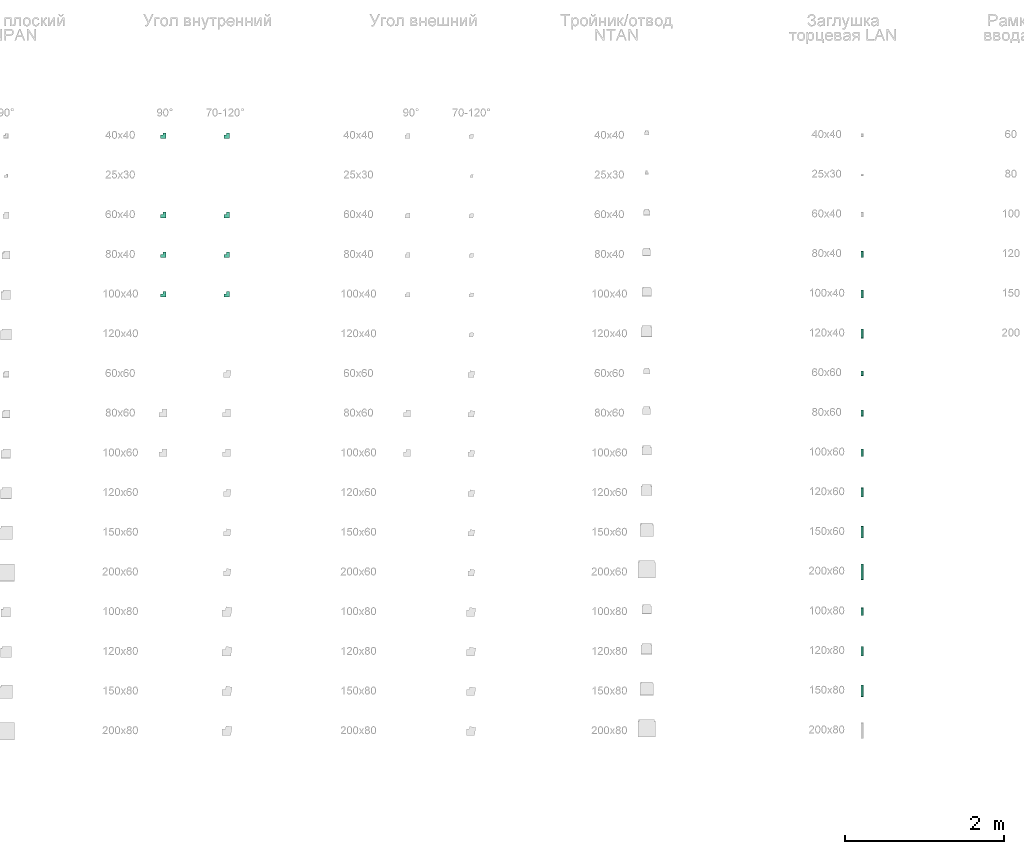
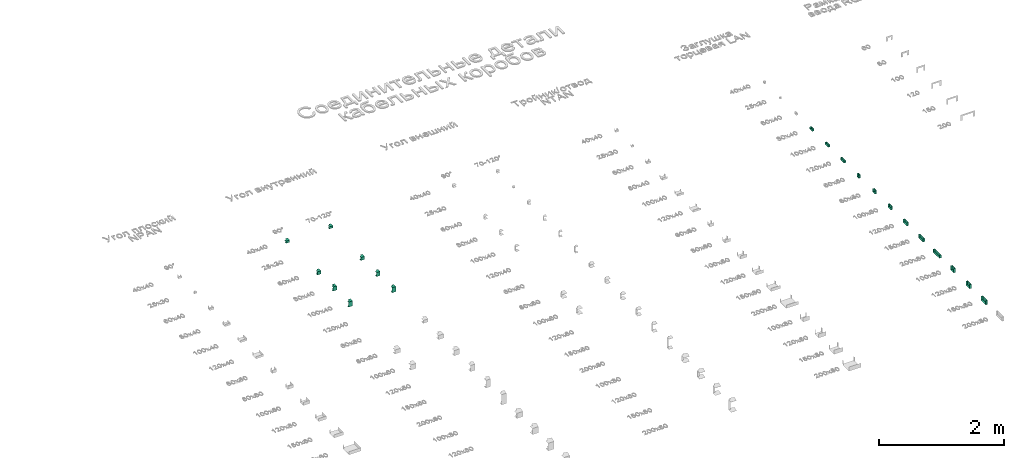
# One storey, part 3 of 71: 20 flow fittings.
"""IFC2X3 building model written with IfcOpenShell, lengths in millimetres."""

from ifc_helpers import new_model, entity, si_unit, converted_unit, derived_unit, direction, frame, frame_2d, origin, place, context, subcontext, project, spatial, polyline, rectangle, outline, extrude, faceted_brep, source, transform, mapped, material, type_object, type_shapes, element, save


model = new_model("IFC2X3")

# Units and contexts
model_context = context("Model", 3, precision=0.01, world=origin(), true_north=direction((6.12303176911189e-17, 1.0)))
body_context = subcontext(model_context, "Body", "Model", "MODEL_VIEW")
ifc_project = project(units=[si_unit("LENGTHUNIT", "METRE", prefix="MILLI"), si_unit("AREAUNIT", "SQUARE_METRE"), si_unit("VOLUMEUNIT", "CUBIC_METRE"), converted_unit("PLANEANGLEUNIT", "DEGREE", entity("IfcRatioMeasure", 0.0174532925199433), si_unit("PLANEANGLEUNIT", "RADIAN"), dimensions=[0, 0, 0, 0, 0, 0, 0]), si_unit("MASSUNIT", "GRAM", prefix="KILO"), derived_unit("MASSDENSITYUNIT", [(si_unit("MASSUNIT", "GRAM", prefix="KILO"), 1), (si_unit("LENGTHUNIT", "METRE"), -3)]), si_unit("TIMEUNIT", "SECOND"), si_unit("FREQUENCYUNIT", "HERTZ"), si_unit("THERMODYNAMICTEMPERATUREUNIT", "DEGREE_CELSIUS"), derived_unit("THERMALTRANSMITTANCEUNIT", [(si_unit("MASSUNIT", "GRAM", prefix="KILO"), 1), (si_unit("THERMODYNAMICTEMPERATUREUNIT", "KELVIN"), -1), (si_unit("TIMEUNIT", "SECOND"), -3)]), derived_unit("VOLUMETRICFLOWRATEUNIT", [(si_unit("LENGTHUNIT", "METRE"), 3), (si_unit("TIMEUNIT", "SECOND"), -1)]), si_unit("ELECTRICCURRENTUNIT", "AMPERE"), si_unit("ELECTRICVOLTAGEUNIT", "VOLT"), si_unit("POWERUNIT", "WATT"), si_unit("FORCEUNIT", "NEWTON", prefix="KILO"), si_unit("ILLUMINANCEUNIT", "LUX"), si_unit("LUMINOUSFLUXUNIT", "LUMEN"), si_unit("LUMINOUSINTENSITYUNIT", "CANDELA"), derived_unit("USERDEFINED", [(si_unit("MASSUNIT", "GRAM", prefix="KILO"), -1), (si_unit("LENGTHUNIT", "METRE"), -2), (si_unit("TIMEUNIT", "SECOND"), 3), (si_unit("LUMINOUSFLUXUNIT", "LUMEN"), 1)]), derived_unit("LINEARVELOCITYUNIT", [(si_unit("LENGTHUNIT", "METRE"), 1), (si_unit("TIMEUNIT", "SECOND"), -1)]), si_unit("PRESSUREUNIT", "PASCAL"), derived_unit("USERDEFINED", [(si_unit("LENGTHUNIT", "METRE"), -2), (si_unit("MASSUNIT", "GRAM", prefix="KILO"), 1), (si_unit("TIMEUNIT", "SECOND"), -2)])], contexts=[model_context])

# Site, building, storey
site_placement = place(None, origin())
site = spatial("IfcSite", under=ifc_project, at=site_placement, Name="Default", CompositionType="ELEMENT")
building_placement = place(site_placement, origin())
building = spatial("IfcBuilding", under=site, at=building_placement, Name="Наименование здания", CompositionType="ELEMENT")
storey_placement = place(building_placement, origin())
storey = spatial("IfcBuildingStorey", under=building, at=storey_placement, Name="Этаж 01", CompositionType="ELEMENT", Elevation=0.0)

# Flow fittings
ifc_material = material(Name="DKC_Пластик_Белый")
cable_carrier_fitting_type_1 = type_object("IfcCableCarrierFittingType", Name="Угол внутренний_DKC", PredefinedType="NOTDEFINED", material=ifc_material)
shared_shape_1 = source(origin(), body_context, "Body", "Brep", [
    faceted_brep([(-50.0, -20.0, 20.0), (-50.0, 20.0, 20.0), (-50.0, 20.0, 17.500000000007), (-50.0, -17.4999999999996, 17.500000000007), (-50.0, -17.4999999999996, -17.499999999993), (-50.0, 20.0, -17.499999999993), (-50.0, 20.0, -20.0), (-50.0, -20.0, -20.0), (20.0, 50.0, 20.0), (20.0, 50.0, -20.0), (-20.0, 50.0, -20.0), (-20.0, 50.0, -17.499999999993), (17.5000000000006, 50.0, -17.499999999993), (17.5000000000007, 50.0, 17.500000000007), (-20.0, 50.0, 17.500000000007), (-20.0, 50.0, 20.0), (20.0, -20.0, 20.0), (-20.0, 20.0, 20.0), (-20.0, 20.0, 17.500000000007), (17.5000000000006, -17.5000000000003, 17.500000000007), (17.5000000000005, -17.4999999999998, -17.499999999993), (-20.0, 20.0, -17.499999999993), (-20.0, 20.0, -20.0), (20.0, -20.0, -20.0)], [[[0, 1, 2, 3, 4, 5, 6, 7]], [[8, 9, 10, 11, 12, 13, 14, 15]], [[1, 0, 16, 8, 15, 17]], [[2, 1, 17, 18]], [[3, 2, 18, 14, 13, 19]], [[4, 3, 19, 20]], [[5, 4, 20, 12, 11, 21]], [[6, 5, 21, 22]], [[7, 6, 22, 10, 9, 23]], [[0, 7, 23, 16]], [[18, 17, 15, 14]], [[20, 19, 13, 12]], [[22, 21, 11, 10]], [[16, 23, 9, 8]]]),
])
type_shapes(cable_carrier_fitting_type_1, [shared_shape_1])
for number, where in (
    (1, (15800.2023027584, 3060.7911827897, 0.0)),
    (2, (16600.2023027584, 3060.7911827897, 0.0)),
):
    element("IfcFlowFitting", number, at=place(storey_placement, frame(where)), inside=storey, type_object=cable_carrier_fitting_type_1, material=ifc_material, Name="КНС_УголВнутренний_ILC_DKC:Угол внутренний_DKC", ObjectType="Угол внутренний_DKC", context=body_context, shape_type="MappedRepresentation", body=[
        mapped(shared_shape_1, transform((0.0, 0.0, 0.0), scale=1.0)),
    ])
cable_carrier_fitting_type_2 = type_object("IfcCableCarrierFittingType", Name="Угол внутренний_DKC", PredefinedType="NOTDEFINED", material=ifc_material)
shared_shape_2 = source(origin(), body_context, "Body", "Brep", [
    faceted_brep([(-50.0, -20.0, 30.0), (-50.0, 20.0, 30.0), (-50.0, 20.0, 27.5000000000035), (-50.0, -17.4999999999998, 27.5000000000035), (-50.0, -17.4999999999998, -27.4999999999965), (-50.0, 20.0, -27.4999999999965), (-50.0, 20.0, -30.0), (-50.0, -20.0, -30.0), (20.0, 50.0, 30.0), (20.0, 50.0, -30.0), (-20.0, 50.0, -30.0), (-20.0, 50.0, -27.4999999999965), (17.5000000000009, 50.0, -27.4999999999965), (17.5000000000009, 50.0, 27.5000000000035), (-20.0, 50.0, 27.5000000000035), (-20.0, 50.0, 30.0), (20.0, -20.0, 30.0), (-20.0, 20.0, 30.0), (-20.0, 20.0, 27.5000000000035), (17.5000000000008, -17.5000000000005, 27.5000000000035), (17.5000000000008, -17.5000000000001, -27.4999999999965), (-20.0, 20.0, -27.4999999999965), (-20.0, 20.0, -30.0), (20.0, -20.0, -30.0)], [[[0, 1, 2, 3, 4, 5, 6, 7]], [[8, 9, 10, 11, 12, 13, 14, 15]], [[1, 0, 16, 8, 15, 17]], [[2, 1, 17, 18]], [[3, 2, 18, 14, 13, 19]], [[4, 3, 19, 20]], [[5, 4, 20, 12, 11, 21]], [[6, 5, 21, 22]], [[7, 6, 22, 10, 9, 23]], [[0, 7, 23, 16]], [[18, 17, 15, 14]], [[20, 19, 13, 12]], [[22, 21, 11, 10]], [[16, 23, 9, 8]]]),
])
type_shapes(cable_carrier_fitting_type_2, [shared_shape_2])
for number, where in (
    (3, (15800.2023027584, 2060.7911827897, 0.0)),
    (4, (16600.2023027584, 2060.7911827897, 0.0)),
):
    element("IfcFlowFitting", number, at=place(storey_placement, frame(where)), inside=storey, type_object=cable_carrier_fitting_type_2, material=ifc_material, Name="КНС_УголВнутренний_ILC_DKC:Угол внутренний_DKC", ObjectType="Угол внутренний_DKC", context=body_context, shape_type="MappedRepresentation", body=[
        mapped(shared_shape_2, transform((0.0, 0.0, 0.0), scale=1.0)),
    ])
cable_carrier_fitting_type_3 = type_object("IfcCableCarrierFittingType", Name="Угол внутренний_DKC", PredefinedType="NOTDEFINED", material=ifc_material)
shared_shape_3 = source(origin(), body_context, "Body", "Brep", [
    faceted_brep([(-50.0, -20.0, 40.0), (-50.0, 20.0, 40.0), (-50.0, 20.0, 37.5000000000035), (-50.0, -17.4999999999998, 37.5000000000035), (-50.0, -17.4999999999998, -37.4999999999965), (-50.0, 20.0, -37.4999999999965), (-50.0, 20.0, -40.0), (-50.0, -20.0, -40.0), (20.0, 50.0, 40.0), (20.0, 50.0, -40.0), (-20.0, 50.0, -40.0), (-20.0, 50.0, -37.4999999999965), (17.5000000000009, 50.0, -37.4999999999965), (17.5000000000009, 50.0, 37.5000000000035), (-20.0, 50.0, 37.5000000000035), (-20.0, 50.0, 40.0), (20.0, -20.0, 40.0), (-20.0, 20.0, 40.0), (-20.0, 20.0, 37.5000000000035), (17.5000000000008, -17.5000000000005, 37.5000000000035), (17.5000000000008, -17.5000000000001, -37.4999999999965), (-20.0, 20.0, -37.4999999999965), (-20.0, 20.0, -40.0), (20.0, -20.0, -40.0)], [[[0, 1, 2, 3, 4, 5, 6, 7]], [[8, 9, 10, 11, 12, 13, 14, 15]], [[1, 0, 16, 8, 15, 17]], [[2, 1, 17, 18]], [[3, 2, 18, 14, 13, 19]], [[4, 3, 19, 20]], [[5, 4, 20, 12, 11, 21]], [[6, 5, 21, 22]], [[7, 6, 22, 10, 9, 23]], [[0, 7, 23, 16]], [[18, 17, 15, 14]], [[20, 19, 13, 12]], [[22, 21, 11, 10]], [[16, 23, 9, 8]]]),
])
type_shapes(cable_carrier_fitting_type_3, [shared_shape_3])
for number, where in (
    (5, (15800.2023027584, 1560.7911827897, 0.0)),
    (6, (16600.2023027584, 1560.7911827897, 0.0)),
):
    element("IfcFlowFitting", number, at=place(storey_placement, frame(where)), inside=storey, type_object=cable_carrier_fitting_type_3, material=ifc_material, Name="КНС_УголВнутренний_ILC_DKC:Угол внутренний_DKC", ObjectType="Угол внутренний_DKC", context=body_context, shape_type="MappedRepresentation", body=[
        mapped(shared_shape_3, transform((0.0, 0.0, 0.0), scale=1.0)),
    ])
cable_carrier_fitting_type_4 = type_object("IfcCableCarrierFittingType", Name="Угол внутренний_DKC", PredefinedType="NOTDEFINED", material=ifc_material)
shared_shape_4 = source(origin(), body_context, "Body", "Brep", [
    faceted_brep([(-50.0, -20.0, 50.0), (-50.0, 20.0, 50.0), (-50.0, 20.0, 47.5000000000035), (-50.0, -17.4999999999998, 47.5000000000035), (-50.0, -17.4999999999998, -47.4999999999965), (-50.0, 20.0, -47.4999999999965), (-50.0, 20.0, -50.0), (-50.0, -20.0, -50.0), (20.0, 50.0, 50.0), (20.0, 50.0, -50.0), (-20.0, 50.0, -50.0), (-20.0, 50.0, -47.4999999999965), (17.5000000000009, 50.0, -47.4999999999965), (17.5000000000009, 50.0, 47.5000000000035), (-20.0, 50.0, 47.5000000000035), (-20.0, 50.0, 50.0), (20.0, -20.0, 50.0), (-20.0, 20.0, 50.0), (-20.0, 20.0, 47.5000000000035), (17.5000000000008, -17.5000000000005, 47.5000000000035), (17.5000000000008, -17.5000000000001, -47.4999999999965), (-20.0, 20.0, -47.4999999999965), (-20.0, 20.0, -50.0), (20.0, -20.0, -50.0)], [[[0, 1, 2, 3, 4, 5, 6, 7]], [[8, 9, 10, 11, 12, 13, 14, 15]], [[1, 0, 16, 8, 15, 17]], [[2, 1, 17, 18]], [[3, 2, 18, 14, 13, 19]], [[4, 3, 19, 20]], [[5, 4, 20, 12, 11, 21]], [[6, 5, 21, 22]], [[7, 6, 22, 10, 9, 23]], [[0, 7, 23, 16]], [[18, 17, 15, 14]], [[20, 19, 13, 12]], [[22, 21, 11, 10]], [[16, 23, 9, 8]]]),
])
type_shapes(cable_carrier_fitting_type_4, [shared_shape_4])
for number, where in (
    (7, (15800.2023027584, 1060.7911827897, 0.0)),
    (8, (16600.2023027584, 1060.7911827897, 0.0)),
):
    element("IfcFlowFitting", number, at=place(storey_placement, frame(where)), inside=storey, type_object=cable_carrier_fitting_type_4, material=ifc_material, Name="КНС_УголВнутренний_ILC_DKC:Угол внутренний_DKC", ObjectType="Угол внутренний_DKC", context=body_context, shape_type="MappedRepresentation", body=[
        mapped(shared_shape_4, transform((0.0, 0.0, 0.0), scale=1.0)),
    ])
cable_carrier_fitting_type_5 = type_object("IfcCableCarrierFittingType", Name="Заглушка торцевая LAN_DKC", PredefinedType="NOTDEFINED", material=ifc_material)
shared_shape_5 = source(origin(), body_context, "Body", "SweptSolid", [
    extrude(outline(polyline([(-20.6250000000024, -40.0), (19.3749999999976, -40.0), (19.3749999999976, -37.5000000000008), (-18.1249999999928, -37.5000000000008), (-18.1249999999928, 37.4999999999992), (19.3749999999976, 37.4999999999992), (19.3749999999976, 40.0), (-20.6250000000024, 40.0), (-20.6250000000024, -40.0)])), frame((-32.4999999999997, 0.0, 0.625000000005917), z_axis=(1.0, 0.0, 0.0), x_axis=(0.0, 0.0, 1.0)), (0.0, 0.0, 1.0), 32.5000000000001),
    extrude(rectangle(XDim=2.50000000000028, YDim=75.0000000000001, at=frame_2d((-3.33066907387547e-16, 3.5527136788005e-15), x_axis=(1.0, 0.0))), frame((-1.24999999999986, 0.0, -20.0), z_axis=(0.0, 0.0, 1.0), x_axis=(-1.0, 0.0, 0.0)), (0.0, 0.0, 1.0), 40.0),
])
type_shapes(cable_carrier_fitting_type_5, [shared_shape_5])
flow_fitting_1_placement = place(storey_placement, frame((24603.0645546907, 1580.79118278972, 0.0)))
element("IfcFlowFitting", 9, at=flow_fitting_1_placement, inside=storey, type_object=cable_carrier_fitting_type_5, material=ifc_material, Name="КНС_ЗаглушкаТорцеваяLAN_ILC_DKC:Заглушка торцевая LAN_DKC", ObjectType="Заглушка торцевая LAN_DKC", context=body_context, shape_type="MappedRepresentation", body=[
    mapped(shared_shape_5, transform((0.0, 0.0, 0.0), scale=1.0)),
])
cable_carrier_fitting_type_6 = type_object("IfcCableCarrierFittingType", Name="Заглушка торцевая LAN_DKC", PredefinedType="NOTDEFINED", material=ifc_material)
shared_shape_6 = source(origin(), body_context, "Body", "SweptSolid", [
    extrude(outline(polyline([(-20.6250000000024, -50.0), (19.3749999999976, -50.0), (19.3749999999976, -47.5000000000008), (-18.1249999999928, -47.5000000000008), (-18.1249999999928, 47.4999999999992), (19.3749999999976, 47.4999999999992), (19.3749999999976, 50.0), (-20.6250000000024, 50.0), (-20.6250000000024, -50.0)])), frame((-32.4999999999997, 0.0, 0.625000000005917), z_axis=(1.0, 0.0, 0.0), x_axis=(0.0, 0.0, 1.0)), (0.0, 0.0, 1.0), 32.5000000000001),
    extrude(rectangle(XDim=2.5000000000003, YDim=95.0, at=frame_2d((-2.22044604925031e-16, 0.0), x_axis=(1.0, 0.0))), frame((-1.2499999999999, 0.0, -20.0), z_axis=(0.0, 0.0, 1.0), x_axis=(-1.0, 0.0, 0.0)), (0.0, 0.0, 1.0), 40.0),
])
type_shapes(cable_carrier_fitting_type_6, [shared_shape_6])
flow_fitting_2_placement = place(storey_placement, frame((24603.0645546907, 1080.79118278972, 0.0)))
element("IfcFlowFitting", 10, at=flow_fitting_2_placement, inside=storey, type_object=cable_carrier_fitting_type_6, material=ifc_material, Name="КНС_ЗаглушкаТорцеваяLAN_ILC_DKC:Заглушка торцевая LAN_DKC", ObjectType="Заглушка торцевая LAN_DKC", context=body_context, shape_type="MappedRepresentation", body=[
    mapped(shared_shape_6, transform((0.0, 0.0, 0.0), scale=1.0)),
])
cable_carrier_fitting_type_7 = type_object("IfcCableCarrierFittingType", Name="Заглушка торцевая LAN_DKC", PredefinedType="NOTDEFINED", material=ifc_material)
shared_shape_7 = source(origin(), body_context, "Body", "SweptSolid", [
    extrude(outline(polyline([(-20.6250000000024, -60.0), (19.3749999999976, -60.0), (19.3749999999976, -57.5000000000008), (-18.1249999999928, -57.5000000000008), (-18.1249999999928, 57.4999999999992), (19.3749999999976, 57.4999999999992), (19.3749999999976, 60.0), (-20.6250000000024, 60.0), (-20.6250000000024, -60.0)])), frame((-32.4999999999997, 0.0, 0.625000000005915), z_axis=(1.0, 0.0, 0.0), x_axis=(0.0, 0.0, 1.0)), (0.0, 0.0, 1.0), 32.5000000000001),
    extrude(rectangle(XDim=2.50000000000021, YDim=115.0, at=frame_2d((-3.33066907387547e-16, 0.0), x_axis=(1.0, 0.0))), frame((-1.24999999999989, 0.0, -20.0), z_axis=(0.0, 0.0, 1.0), x_axis=(-1.0, 0.0, 0.0)), (0.0, 0.0, 1.0), 40.0),
])
type_shapes(cable_carrier_fitting_type_7, [shared_shape_7])
flow_fitting_3_placement = place(storey_placement, frame((24603.0645546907, 580.791182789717, 0.0)))
element("IfcFlowFitting", 11, at=flow_fitting_3_placement, inside=storey, type_object=cable_carrier_fitting_type_7, material=ifc_material, Name="КНС_ЗаглушкаТорцеваяLAN_ILC_DKC:Заглушка торцевая LAN_DKC", ObjectType="Заглушка торцевая LAN_DKC", context=body_context, shape_type="MappedRepresentation", body=[
    mapped(shared_shape_7, transform((0.0, 0.0, 0.0), scale=1.0)),
])
cable_carrier_fitting_type_8 = type_object("IfcCableCarrierFittingType", Name="Заглушка торцевая LAN_DKC", PredefinedType="NOTDEFINED", material=ifc_material)
shared_shape_8 = source(origin(), body_context, "Body", "SweptSolid", [
    extrude(outline(polyline([(-30.6250000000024, -30.0), (29.3749999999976, -30.0), (29.3749999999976, -27.5000000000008), (-28.1249999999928, -27.5000000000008), (-28.1249999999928, 27.4999999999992), (29.3749999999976, 27.4999999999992), (29.3749999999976, 30.0), (-30.6250000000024, 30.0), (-30.6250000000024, -30.0)])), frame((-32.4999999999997, 0.0, 0.625000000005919), z_axis=(1.0, 0.0, 0.0), x_axis=(0.0, 0.0, 1.0)), (0.0, 0.0, 1.0), 32.5000000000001),
    extrude(rectangle(XDim=2.50000000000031, YDim=55.0000000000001, at=frame_2d((2.22044604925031e-16, 0.0), x_axis=(1.0, 0.0))), frame((-1.24999999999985, 0.0, -30.0), z_axis=(0.0, 0.0, 1.0), x_axis=(-1.0, 0.0, 0.0)), (0.0, 0.0, 1.0), 60.0),
])
type_shapes(cable_carrier_fitting_type_8, [shared_shape_8])
flow_fitting_4_placement = place(storey_placement, frame((24603.0645546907, 80.7911827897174, 0.0)))
element("IfcFlowFitting", 12, at=flow_fitting_4_placement, inside=storey, type_object=cable_carrier_fitting_type_8, material=ifc_material, Name="КНС_ЗаглушкаТорцеваяLAN_ILC_DKC:Заглушка торцевая LAN_DKC", ObjectType="Заглушка торцевая LAN_DKC", context=body_context, shape_type="MappedRepresentation", body=[
    mapped(shared_shape_8, transform((0.0, 0.0, 0.0), scale=1.0)),
])
cable_carrier_fitting_type_9 = type_object("IfcCableCarrierFittingType", Name="Заглушка торцевая LAN_DKC", PredefinedType="NOTDEFINED", material=ifc_material)
shared_shape_9 = source(origin(), body_context, "Body", "SweptSolid", [
    extrude(outline(polyline([(-30.6250000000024, -40.0), (29.3749999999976, -40.0), (29.3749999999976, -37.5000000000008), (-28.1249999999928, -37.5000000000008), (-28.1249999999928, 37.4999999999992), (29.3749999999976, 37.4999999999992), (29.3749999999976, 40.0), (-30.6250000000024, 40.0), (-30.6250000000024, -40.0)])), frame((-32.4999999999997, 0.0, 0.625000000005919), z_axis=(1.0, 0.0, 0.0), x_axis=(0.0, 0.0, 1.0)), (0.0, 0.0, 1.0), 32.5000000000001),
    extrude(rectangle(XDim=2.50000000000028, YDim=75.0000000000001, at=frame_2d((-3.33066907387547e-16, 3.5527136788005e-15), x_axis=(1.0, 0.0))), frame((-1.24999999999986, 0.0, -30.0), z_axis=(0.0, 0.0, 1.0), x_axis=(-1.0, 0.0, 0.0)), (0.0, 0.0, 1.0), 60.0),
])
type_shapes(cable_carrier_fitting_type_9, [shared_shape_9])
flow_fitting_5_placement = place(storey_placement, frame((24603.0645546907, -419.208817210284, 0.0)))
element("IfcFlowFitting", 13, at=flow_fitting_5_placement, inside=storey, type_object=cable_carrier_fitting_type_9, material=ifc_material, Name="КНС_ЗаглушкаТорцеваяLAN_ILC_DKC:Заглушка торцевая LAN_DKC", ObjectType="Заглушка торцевая LAN_DKC", context=body_context, shape_type="MappedRepresentation", body=[
    mapped(shared_shape_9, transform((0.0, 0.0, 0.0), scale=1.0)),
])
cable_carrier_fitting_type_10 = type_object("IfcCableCarrierFittingType", Name="Заглушка торцевая LAN_DKC", PredefinedType="NOTDEFINED", material=ifc_material)
shared_shape_10 = source(origin(), body_context, "Body", "SweptSolid", [
    extrude(outline(polyline([(-30.6250000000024, -50.0), (29.3749999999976, -50.0), (29.3749999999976, -47.5000000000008), (-28.1249999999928, -47.5000000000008), (-28.1249999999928, 47.4999999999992), (29.3749999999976, 47.4999999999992), (29.3749999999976, 50.0), (-30.6250000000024, 50.0), (-30.6250000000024, -50.0)])), frame((-32.4999999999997, 0.0, 0.625000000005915), z_axis=(1.0, 0.0, 0.0), x_axis=(0.0, 0.0, 1.0)), (0.0, 0.0, 1.0), 32.5000000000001),
    extrude(rectangle(XDim=2.5000000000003, YDim=95.0, at=frame_2d((-2.22044604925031e-16, 0.0), x_axis=(1.0, 0.0))), frame((-1.2499999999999, 0.0, -30.0), z_axis=(0.0, 0.0, 1.0), x_axis=(-1.0, 0.0, 0.0)), (0.0, 0.0, 1.0), 60.0),
])
type_shapes(cable_carrier_fitting_type_10, [shared_shape_10])
flow_fitting_6_placement = place(storey_placement, frame((24603.0645546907, -919.208817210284, 0.0)))
element("IfcFlowFitting", 14, at=flow_fitting_6_placement, inside=storey, type_object=cable_carrier_fitting_type_10, material=ifc_material, Name="КНС_ЗаглушкаТорцеваяLAN_ILC_DKC:Заглушка торцевая LAN_DKC", ObjectType="Заглушка торцевая LAN_DKC", context=body_context, shape_type="MappedRepresentation", body=[
    mapped(shared_shape_10, transform((0.0, 0.0, 0.0), scale=1.0)),
])
cable_carrier_fitting_type_11 = type_object("IfcCableCarrierFittingType", Name="Заглушка торцевая LAN_DKC", PredefinedType="NOTDEFINED", material=ifc_material)
shared_shape_11 = source(origin(), body_context, "Body", "SweptSolid", [
    extrude(outline(polyline([(-30.6250000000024, -60.0), (29.3749999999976, -60.0), (29.3749999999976, -57.5000000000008), (-28.1249999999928, -57.5000000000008), (-28.1249999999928, 57.4999999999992), (29.3749999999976, 57.4999999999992), (29.3749999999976, 60.0), (-30.6250000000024, 60.0), (-30.6250000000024, -60.0)])), frame((-32.4999999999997, 0.0, 0.625000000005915), z_axis=(1.0, 0.0, 0.0), x_axis=(0.0, 0.0, 1.0)), (0.0, 0.0, 1.0), 32.5000000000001),
    extrude(rectangle(XDim=2.50000000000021, YDim=115.0, at=frame_2d((-3.33066907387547e-16, 0.0), x_axis=(1.0, 0.0))), frame((-1.24999999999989, 0.0, -30.0), z_axis=(0.0, 0.0, 1.0), x_axis=(-1.0, 0.0, 0.0)), (0.0, 0.0, 1.0), 60.0),
])
type_shapes(cable_carrier_fitting_type_11, [shared_shape_11])
flow_fitting_7_placement = place(storey_placement, frame((24603.0645546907, -1419.20881721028, 0.0)))
element("IfcFlowFitting", 15, at=flow_fitting_7_placement, inside=storey, type_object=cable_carrier_fitting_type_11, material=ifc_material, Name="КНС_ЗаглушкаТорцеваяLAN_ILC_DKC:Заглушка торцевая LAN_DKC", ObjectType="Заглушка торцевая LAN_DKC", context=body_context, shape_type="MappedRepresentation", body=[
    mapped(shared_shape_11, transform((0.0, 0.0, 0.0), scale=1.0)),
])
cable_carrier_fitting_type_12 = type_object("IfcCableCarrierFittingType", Name="Заглушка торцевая LAN_DKC", PredefinedType="NOTDEFINED", material=ifc_material)
shared_shape_12 = source(origin(), body_context, "Body", "SweptSolid", [
    extrude(outline(polyline([(-30.6250000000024, -75.0), (29.3749999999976, -75.0), (29.3749999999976, -72.5000000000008), (-28.1249999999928, -72.5000000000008), (-28.1249999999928, 72.4999999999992), (29.3749999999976, 72.4999999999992), (29.3749999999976, 75.0), (-30.6250000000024, 75.0), (-30.6250000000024, -75.0)])), frame((-32.4999999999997, 0.0, 0.625000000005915), z_axis=(1.0, 0.0, 0.0), x_axis=(0.0, 0.0, 1.0)), (0.0, 0.0, 1.0), 32.5000000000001),
    extrude(rectangle(XDim=2.50000000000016, YDim=145.0, at=frame_2d((-2.22044604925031e-16, 0.0), x_axis=(1.0, 0.0))), frame((-1.24999999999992, 0.0, -30.0), z_axis=(0.0, 0.0, 1.0), x_axis=(-1.0, 0.0, 0.0)), (0.0, 0.0, 1.0), 60.0),
])
type_shapes(cable_carrier_fitting_type_12, [shared_shape_12])
flow_fitting_8_placement = place(storey_placement, frame((24603.0645546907, -1919.20881721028, 0.0)))
element("IfcFlowFitting", 16, at=flow_fitting_8_placement, inside=storey, type_object=cable_carrier_fitting_type_12, material=ifc_material, Name="КНС_ЗаглушкаТорцеваяLAN_ILC_DKC:Заглушка торцевая LAN_DKC", ObjectType="Заглушка торцевая LAN_DKC", context=body_context, shape_type="MappedRepresentation", body=[
    mapped(shared_shape_12, transform((0.0, 0.0, 0.0), scale=1.0)),
])
cable_carrier_fitting_type_13 = type_object("IfcCableCarrierFittingType", Name="Заглушка торцевая LAN_DKC", PredefinedType="NOTDEFINED", material=ifc_material)
shared_shape_13 = source(origin(), body_context, "Body", "SweptSolid", [
    extrude(outline(polyline([(-30.6250000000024, -100.0), (29.3749999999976, -100.0), (29.3749999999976, -97.5000000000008), (-28.1249999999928, -97.5000000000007), (-28.1249999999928, 97.4999999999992), (29.3749999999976, 97.4999999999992), (29.3749999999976, 100.0), (-30.6250000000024, 100.0), (-30.6250000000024, -100.0)])), frame((-32.4999999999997, 0.0, 0.625000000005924), z_axis=(1.0, 0.0, 0.0), x_axis=(0.0, 0.0, 1.0)), (0.0, 0.0, 1.0), 32.5000000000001),
    extrude(rectangle(XDim=2.50000000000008, YDim=195.0, at=frame_2d((0.0, 7.105427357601e-15), x_axis=(1.0, 0.0))), frame((-1.24999999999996, 0.0, -30.0), z_axis=(0.0, 0.0, 1.0), x_axis=(-1.0, 0.0, 0.0)), (0.0, 0.0, 1.0), 60.0),
])
type_shapes(cable_carrier_fitting_type_13, [shared_shape_13])
flow_fitting_9_placement = place(storey_placement, frame((24603.0645546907, -2419.20881721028, 0.0)))
element("IfcFlowFitting", 17, at=flow_fitting_9_placement, inside=storey, type_object=cable_carrier_fitting_type_13, material=ifc_material, Name="КНС_ЗаглушкаТорцеваяLAN_ILC_DKC:Заглушка торцевая LAN_DKC", ObjectType="Заглушка торцевая LAN_DKC", context=body_context, shape_type="MappedRepresentation", body=[
    mapped(shared_shape_13, transform((0.0, 0.0, 0.0), scale=1.0)),
])
cable_carrier_fitting_type_14 = type_object("IfcCableCarrierFittingType", Name="Заглушка торцевая LAN_DKC", PredefinedType="NOTDEFINED", material=ifc_material)
shared_shape_14 = source(origin(), body_context, "Body", "SweptSolid", [
    extrude(outline(polyline([(-40.6250000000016, -50.0), (39.3749999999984, -50.0), (39.3749999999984, -47.5000000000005), (-38.1249999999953, -47.5000000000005), (-38.1249999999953, 47.4999999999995), (39.3749999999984, 47.4999999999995), (39.3749999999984, 50.0), (-40.6250000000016, 50.0), (-40.6250000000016, -50.0)])), frame((-32.4999999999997, 0.0, 0.625000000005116), z_axis=(1.0, 0.0, 0.0), x_axis=(0.0, 0.0, 1.0)), (0.0, 0.0, 1.0), 32.5000000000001),
    extrude(rectangle(XDim=2.5000000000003, YDim=95.0, at=frame_2d((-2.22044604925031e-16, 0.0), x_axis=(1.0, 0.0))), frame((-1.2499999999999, 0.0, -40.0), z_axis=(0.0, 0.0, 1.0), x_axis=(-1.0, 0.0, 0.0)), (0.0, 0.0, 1.0), 80.0),
])
type_shapes(cable_carrier_fitting_type_14, [shared_shape_14])
flow_fitting_10_placement = place(storey_placement, frame((24603.0645546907, -2919.20881721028, 0.0)))
element("IfcFlowFitting", 18, at=flow_fitting_10_placement, inside=storey, type_object=cable_carrier_fitting_type_14, material=ifc_material, Name="КНС_ЗаглушкаТорцеваяLAN_ILC_DKC:Заглушка торцевая LAN_DKC", ObjectType="Заглушка торцевая LAN_DKC", context=body_context, shape_type="MappedRepresentation", body=[
    mapped(shared_shape_14, transform((0.0, 0.0, 0.0), scale=1.0)),
])
cable_carrier_fitting_type_15 = type_object("IfcCableCarrierFittingType", Name="Заглушка торцевая LAN_DKC", PredefinedType="NOTDEFINED", material=ifc_material)
shared_shape_15 = source(origin(), body_context, "Body", "SweptSolid", [
    extrude(outline(polyline([(-40.6250000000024, -60.0), (39.3749999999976, -60.0), (39.3749999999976, -57.5000000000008), (-38.1249999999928, -57.5000000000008), (-38.1249999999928, 57.4999999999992), (39.3749999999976, 57.4999999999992), (39.3749999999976, 60.0), (-40.6250000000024, 60.0), (-40.6250000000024, -60.0)])), frame((-32.4999999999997, 0.0, 0.625000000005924), z_axis=(1.0, 0.0, 0.0), x_axis=(0.0, 0.0, 1.0)), (0.0, 0.0, 1.0), 32.5000000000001),
    extrude(rectangle(XDim=2.50000000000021, YDim=115.0, at=frame_2d((-3.33066907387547e-16, 0.0), x_axis=(1.0, 0.0))), frame((-1.24999999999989, 0.0, -40.0), z_axis=(0.0, 0.0, 1.0), x_axis=(-1.0, 0.0, 0.0)), (0.0, 0.0, 1.0), 80.0),
])
type_shapes(cable_carrier_fitting_type_15, [shared_shape_15])
flow_fitting_11_placement = place(storey_placement, frame((24603.0645546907, -3419.20881721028, 0.0)))
element("IfcFlowFitting", 19, at=flow_fitting_11_placement, inside=storey, type_object=cable_carrier_fitting_type_15, material=ifc_material, Name="КНС_ЗаглушкаТорцеваяLAN_ILC_DKC:Заглушка торцевая LAN_DKC", ObjectType="Заглушка торцевая LAN_DKC", context=body_context, shape_type="MappedRepresentation", body=[
    mapped(shared_shape_15, transform((0.0, 0.0, 0.0), scale=1.0)),
])
cable_carrier_fitting_type_16 = type_object("IfcCableCarrierFittingType", Name="Заглушка торцевая LAN_DKC", PredefinedType="NOTDEFINED", material=ifc_material)
shared_shape_16 = source(origin(), body_context, "Body", "SweptSolid", [
    extrude(outline(polyline([(-40.6250000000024, -75.0), (39.3749999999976, -75.0), (39.3749999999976, -72.5000000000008), (-38.1249999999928, -72.5000000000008), (-38.1249999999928, 72.4999999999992), (39.3749999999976, 72.4999999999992), (39.3749999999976, 75.0), (-40.6250000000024, 75.0), (-40.6250000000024, -75.0)])), frame((-32.4999999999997, 0.0, 0.625000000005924), z_axis=(1.0, 0.0, 0.0), x_axis=(0.0, 0.0, 1.0)), (0.0, 0.0, 1.0), 32.5000000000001),
    extrude(rectangle(XDim=2.50000000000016, YDim=145.0, at=frame_2d((-2.22044604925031e-16, 0.0), x_axis=(1.0, 0.0))), frame((-1.24999999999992, 0.0, -40.0), z_axis=(0.0, 0.0, 1.0), x_axis=(-1.0, 0.0, 0.0)), (0.0, 0.0, 1.0), 80.0),
])
type_shapes(cable_carrier_fitting_type_16, [shared_shape_16])
flow_fitting_12_placement = place(storey_placement, frame((24603.0645546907, -3919.20881721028, 0.0)))
element("IfcFlowFitting", 20, at=flow_fitting_12_placement, inside=storey, type_object=cable_carrier_fitting_type_16, material=ifc_material, Name="КНС_ЗаглушкаТорцеваяLAN_ILC_DKC:Заглушка торцевая LAN_DKC", ObjectType="Заглушка торцевая LAN_DKC", context=body_context, shape_type="MappedRepresentation", body=[
    mapped(shared_shape_16, transform((0.0, 0.0, 0.0), scale=1.0)),
])

save(model, "model.ifc")
